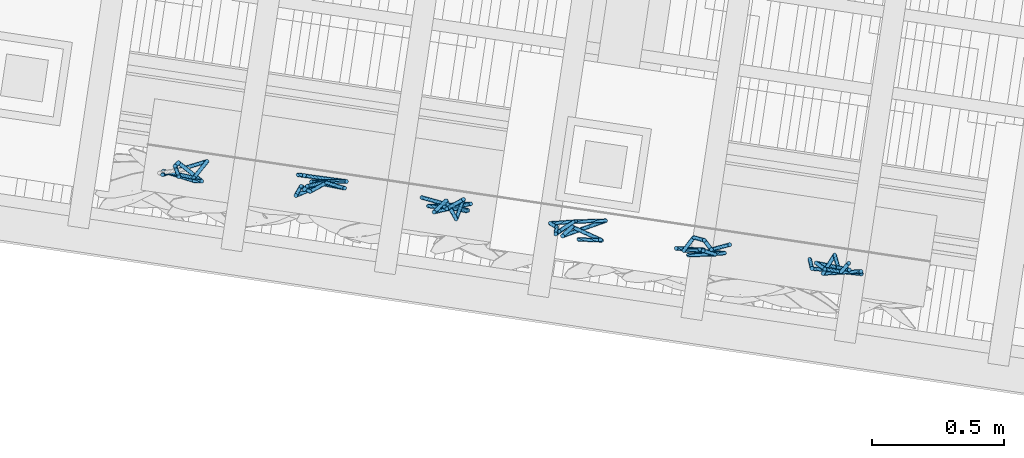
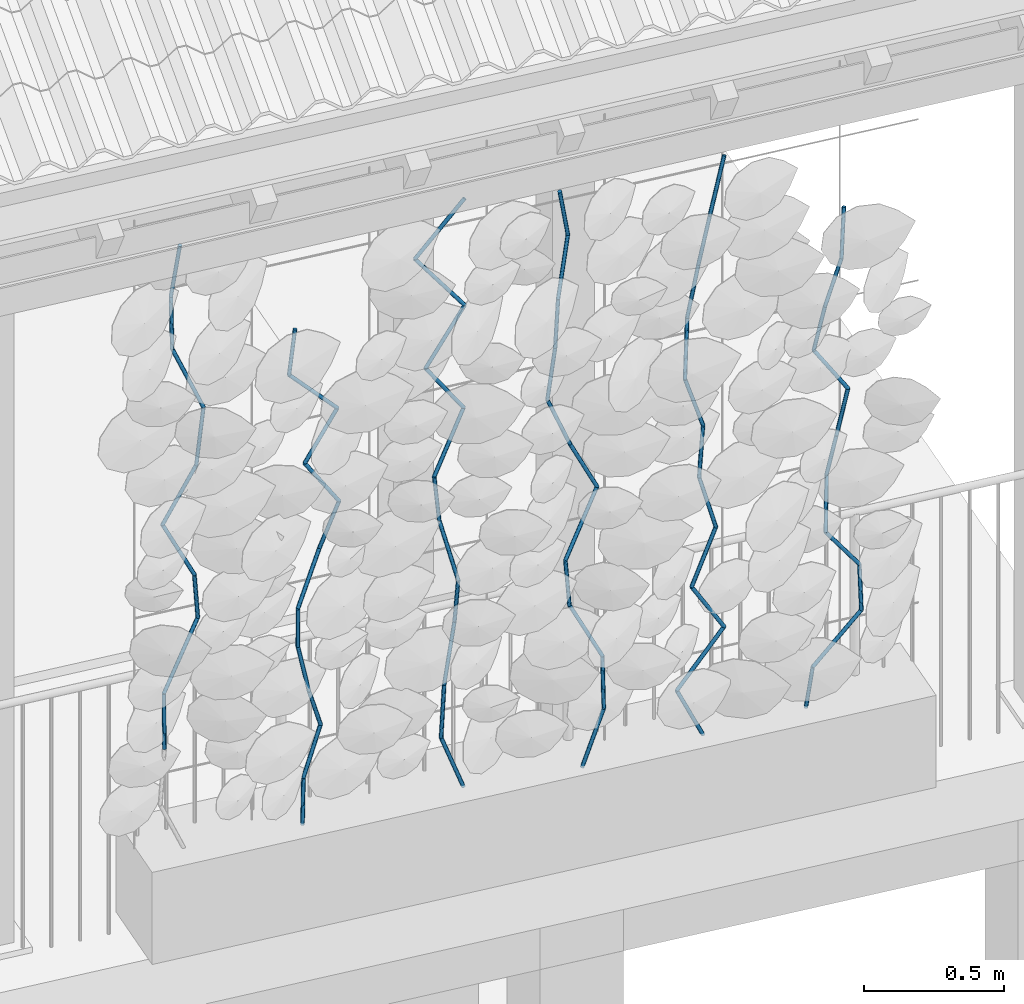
# One storey, part 119 of 131: 64 members, 1 element without a shape of its own.
"""IFC4 building model written with IfcOpenShell, lengths in metres."""

import ifcopenshell
import ifcopenshell.guid

model = None  # the IFC model being written
_history = None  # IfcOwnerHistory: only IFC2X3 demands one
_inside = {}  # id of a spatial element -> (the spatial element, [elements in it])
_under = {}  # id of a project, library or spatial element -> (it, [spatial elements below it])
_declared = {}  # id of a project -> (the project, [libraries it declares])
_typed = {}  # id of a type object -> (the type object, [elements of that type])
_made_of = {}  # id of a material, layer set ... -> (it, [elements and type objects made of it])


def new_model(schema):
    """Start an empty IFC model of exactly this schema.

    Asked for "IFC4X3", IfcOpenShell would pick the latest addendum, in which some entities
    have other attributes; the version numbers below select the first issue.
    IFC2X3 requires an IfcOwnerHistory on every rooted entity: one is made here for all.
    """
    global model, _history
    if schema == "IFC4X3":
        model = ifcopenshell.file(schema_version=(4, 3, 0, 0))
    else:
        model = ifcopenshell.file(schema=schema)
    _inside.clear()
    _under.clear()
    _declared.clear()
    _typed.clear()
    _made_of.clear()
    _history = None
    if model.schema == "IFC2X3":
        org = make("IfcOrganization", Name="unknown")
        user = make(
            "IfcPersonAndOrganization",
            ThePerson=make("IfcPerson", FamilyName="unknown"),
            TheOrganization=org,
        )
        app = make(
            "IfcApplication",
            ApplicationDeveloper=org,
            Version="unknown",
            ApplicationFullName="unknown",
            ApplicationIdentifier="unknown",
        )
        _history = make(
            "IfcOwnerHistory",
            OwningUser=user,
            OwningApplication=app,
            ChangeAction="ADDED",
            CreationDate=0,
        )
    return model


def make(cls, **values):
    """One entity of the class cls with the attributes given. An attribute that is None is left unset."""
    return model.create_entity(
        cls, **{name: value for name, value in values.items() if value is not None}
    )


def rooted(cls, **values):
    """An entity with a GlobalId (a new one), such as an element, a storey or a relation."""
    return make(cls, GlobalId=ifcopenshell.guid.new(), OwnerHistory=_history, **values)


def si_unit(unit_type, name, prefix=None):
    """IfcSIUnit, for example si_unit("LENGTHUNIT", "METRE", prefix="MILLI")."""
    return make("IfcSIUnit", UnitType=unit_type, Prefix=prefix, Name=name)


def assignment(units):
    """IfcUnitAssignment: the units of a project."""
    return None if units is None else make("IfcUnitAssignment", Units=units)


def point(xyz):
    """IfcCartesianPoint."""
    return None if xyz is None else make("IfcCartesianPoint", Coordinates=xyz)


def direction(xyz):
    """IfcDirection."""
    return None if xyz is None else make("IfcDirection", DirectionRatios=xyz)


def frame(location, z_axis=None, x_axis=None):
    """IfcAxis2Placement3D, a coordinate frame: its origin and axes. An axis left out is left unset."""
    return make(
        "IfcAxis2Placement3D",
        Location=point(location),
        Axis=direction(z_axis),
        RefDirection=direction(x_axis),
    )


def origin_with_axes():
    """The frame at (0, 0, 0) with the z axis (0, 0, 1) and the x axis (1, 0, 0) written out."""
    return frame((0.0, 0.0, 0.0), z_axis=(0.0, 0.0, 1.0), x_axis=(1.0, 0.0, 0.0))


def place(relative_to, where):
    """IfcLocalPlacement: puts the frame where relative to a parent placement (None: the world)."""
    return make(
        "IfcLocalPlacement", PlacementRelTo=relative_to, RelativePlacement=where
    )


def context(
    kind, dimensions, precision=None, world=None, true_north=None, identifier=None
):
    """IfcGeometricRepresentationContext, for example the 3D "Model" context."""
    return make(
        "IfcGeometricRepresentationContext",
        ContextIdentifier=identifier,
        ContextType=kind,
        CoordinateSpaceDimension=dimensions,
        Precision=precision,
        WorldCoordinateSystem=world,
        TrueNorth=true_north,
    )


def subcontext(parent, identifier, kind, view, scale=None):
    """IfcGeometricRepresentationSubContext, for example "Body" below "Model"."""
    return make(
        "IfcGeometricRepresentationSubContext",
        ContextIdentifier=identifier,
        ContextType=kind,
        ParentContext=parent,
        TargetScale=scale,
        TargetView=view,
    )


def project(units=None, contexts=None):
    """IfcProject with its units and contexts."""
    return rooted(
        "IfcProject",
        Name="project",
        RepresentationContexts=contexts,
        UnitsInContext=assignment(units),
    )


def spatial(cls, under=None, at=None, **own):
    """A site, building, storey or space (cls), placed at a placement, below another one or the project."""
    s = rooted(cls, ObjectPlacement=at, **own)
    if under is not None:
        _under.setdefault(under.id(), (under, []))[1].append(s)
    return s


def profile(cls, at=None, kind="AREA", **sizes):
    """A parametric profile (cls). Its sizes go by their IFC names, for example OverallWidth=200.0."""
    return make(cls, ProfileType=kind, Position=at, **sizes)


def circle(**sizes):
    """IfcCircleProfileDef."""
    return profile("IfcCircleProfileDef", **sizes)


def extrude(swept, where, along, depth):
    """IfcExtrudedAreaSolid: the profile swept, set in the frame where, extruded along a direction by depth."""
    return make(
        "IfcExtrudedAreaSolid",
        SweptArea=swept,
        Position=where,
        ExtrudedDirection=direction(along),
        Depth=depth,
    )


def shape(context_of_items, identifier, shape_type, items):
    """IfcShapeRepresentation: the items that make up one representation, for example the "Body"."""
    return make(
        "IfcShapeRepresentation",
        ContextOfItems=context_of_items,
        RepresentationIdentifier=identifier,
        RepresentationType=shape_type,
        Items=items,
    )


def material(Name=None, Category=None):
    """IfcMaterial."""
    return make("IfcMaterial", Name=Name, Category=Category)


def material_profile(
    of_material, cross_section, Name=None, Category=None, Priority=None
):
    """IfcMaterialProfile: a cross section and its material."""
    return make(
        "IfcMaterialProfile",
        Name=Name,
        Material=of_material,
        Profile=cross_section,
        Priority=Priority,
        Category=Category,
    )


def profile_set(profiles, Name=None, composite=None):
    """IfcMaterialProfileSet."""
    return make(
        "IfcMaterialProfileSet",
        Name=Name,
        MaterialProfiles=profiles,
        CompositeProfile=composite,
    )


def profile_usage(for_profile_set, cardinal=None, extent=None):
    """IfcMaterialProfileSetUsage: how a profile set lies along its element."""
    return make(
        "IfcMaterialProfileSetUsage",
        ForProfileSet=for_profile_set,
        CardinalPoint=cardinal,
        ReferenceExtent=extent,
    )


def made_of(thing, what):
    """Note that an element or type object is made of a material, layer set ...; save() writes the relation."""
    if what is not None:
        _made_of.setdefault(what.id(), (what, []))[1].append(thing)
    return thing


def type_object(cls, material=None, **own):
    """A type object (cls), such as IfcWallType, which elements share."""
    return made_of(rooted(cls, **own), material)


def element(
    cls,
    number,
    at=None,
    inside=None,
    cuts=None,
    type_object=None,
    material=None,
    context=None,
    identifier="Body",
    shape_type=None,
    held_by="IfcProductDefinitionShape",
    body=None,
    shapes=None,
    **own,
):
    """One element of the class cls, such as IfcWall. Its Tag is "e" and its number.

    at: its placement. inside: the storey or other place that contains it. cuts: it is an
    opening in that element (IfcRelVoidsElement). A single representation is given by context,
    identifier, shape_type and body (its items); several are given by shapes. held_by: the class
    of the entity that holds the representations. save() writes the other relations.
    """
    e = rooted(cls, Tag="e%d" % number, ObjectPlacement=at, **own)
    if body is not None:
        shapes = [shape(context, identifier, shape_type, body)]
    if shapes is not None:
        e.Representation = make(held_by, Representations=shapes)
    if inside is not None:
        _inside.setdefault(inside.id(), (inside, []))[1].append(e)
    if cuts is not None:
        rooted(
            "IfcRelVoidsElement", RelatingBuildingElement=cuts, RelatedOpeningElement=e
        )
    if type_object is not None:
        _typed.setdefault(type_object.id(), (type_object, []))[1].append(e)
    return made_of(e, material)


def aggregate(whole, parts):
    """IfcRelAggregates: a whole, such as a stair, and the parts it consists of."""
    return rooted("IfcRelAggregates", RelatingObject=whole, RelatedObjects=parts)


def save(model, path):
    """Write the relations noted so far, then the file.

    IfcRelAggregates (storeys below a building ...), IfcRelContainedInSpatialStructure (elements
    in a storey), IfcRelDefinesByType, IfcRelAssociatesMaterial and IfcRelDeclares: one each for
    every whole, place, type object, material and project.
    """
    for whole, parts in _under.values():
        aggregate(whole, parts)
    for where, things in _inside.values():
        rooted(
            "IfcRelContainedInSpatialStructure",
            RelatedElements=things,
            RelatingStructure=where,
        )
    for kind, things in _typed.values():
        rooted("IfcRelDefinesByType", RelatedObjects=things, RelatingType=kind)
    for what, things in _made_of.values():
        rooted("IfcRelAssociatesMaterial", RelatedObjects=things, RelatingMaterial=what)
    for by, libraries in _declared.values():
        rooted("IfcRelDeclares", RelatingContext=by, RelatedDefinitions=libraries)
    model.write(path)


model = new_model("IFC4")

# Units and contexts
model_context = context("Model", 3, precision=1e-05, world=origin_with_axes(), true_north=direction((0.0, 1.0)))
body_context = subcontext(model_context, "Body", "Model", "MODEL_VIEW")
ifc_project = project(units=[si_unit("VOLUMEUNIT", "CUBIC_METRE"), si_unit("LENGTHUNIT", "METRE"), si_unit("AREAUNIT", "SQUARE_METRE")], contexts=[model_context])

# Site, building, storey
site_placement = place(None, origin_with_axes())
site = spatial("IfcSite", under=ifc_project, at=site_placement, Name="Lares · Rua das Mercês · artigo 4771")
building_placement = place(site_placement, frame((15.0, 9.7, 15.8), z_axis=(0.0, 0.0, 1.0), x_axis=(0.989015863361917, -0.147809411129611, 0.0)))
building = spatial("IfcBuilding", under=site, at=building_placement, Name="Casa Sobreposta")
storey_placement = place(building_placement, origin_with_axes())
storey = spatial("IfcBuildingStorey", under=building, at=storey_placement, Name="00 · Habitação e estacionamento", Elevation=15.8)

# Assembly, members
assembly_placement = place(storey_placement, origin_with_axes())
assembly = element("IfcElementAssembly", 1, at=assembly_placement, inside=storey, Name="Fachada sul e pátio · estrutura e trepadeiras", ObjectType="LIVING_SHADE_TRELLIS", PredefinedType="USERDEFINED")
ifc_material = material(Name="Ramos de trepadeiras", Category="wood")
ifc_material_profile = material_profile(ifc_material, circle(Radius=0.0075))
ifc_profile_set = profile_set([ifc_material_profile], Name="D0.015")
ifc_profile_usage_1 = profile_usage(ifc_profile_set)
member_type = type_object("IfcMemberType", Name="D0.015 / vine_wood", PredefinedType="NOTDEFINED", material=ifc_profile_set)
member_1_placement = place(assembly_placement, frame((28.5749850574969, -1.71359357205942, 0.832915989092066), z_axis=(-0.0115075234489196, -0.00834781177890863, 0.999898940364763), x_axis=(0.999933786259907, -9.6069000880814e-05, 0.0115071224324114)))
member_1 = element("IfcMember", 2, at=member_1_placement, type_object=member_type, material=ifc_profile_usage_1, Name="Trepadeiras · ramo", context=body_context, shape_type="SweptSolid", body=[
    extrude(circle(Radius=0.0075), origin_with_axes(), (0.0, 0.0, 1.0), 0.241482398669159),
])
ifc_profile_usage_2 = profile_usage(ifc_profile_set)
member_2_placement = place(assembly_placement, frame((28.5722061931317, -1.71560942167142, 1.0743739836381), z_axis=(0.533464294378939, 0.251838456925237, 0.807460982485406), x_axis=(0.426902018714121, -0.904297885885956, 0.0)))
member_2 = element("IfcMember", 3, at=member_2_placement, type_object=member_type, material=ifc_profile_usage_2, Name="Trepadeiras · ramo", context=body_context, shape_type="SweptSolid", body=[
    extrude(circle(Radius=0.0075), origin_with_axes(), (0.0, 0.0, 1.0), 0.29903363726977),
])
ifc_profile_usage_3 = profile_usage(ifc_profile_set)
member_3_placement = place(assembly_placement, frame((28.7317299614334, -1.64030125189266, 1.31583197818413), z_axis=(-0.158977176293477, -0.272002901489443, 0.949073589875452), x_axis=(-0.863351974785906, 0.504602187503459, 0.0)))
member_3 = element("IfcMember", 4, at=member_3_placement, type_object=member_type, material=ifc_profile_usage_3, Name="Trepadeiras · ramo", context=body_context, shape_type="SweptSolid", body=[
    extrude(circle(Radius=0.0075), origin_with_axes(), (0.0, 0.0, 1.0), 0.254414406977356),
])
ifc_profile_usage_4 = profile_usage(ifc_profile_set)
member_4_placement = place(assembly_placement, frame((28.6912838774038, -1.70950270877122, 1.55728997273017), z_axis=(-0.441663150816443, 0.0283630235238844, 0.89673251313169), x_axis=(0.0640866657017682, 0.997944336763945, 0.0)))
member_4 = element("IfcMember", 5, at=member_4_placement, type_object=member_type, material=ifc_profile_usage_4, Name="Trepadeiras · ramo", context=body_context, shape_type="SweptSolid", body=[
    extrude(circle(Radius=0.0075), origin_with_axes(), (0.0, 0.0, 1.0), 0.269264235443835),
])
ifc_profile_usage_5 = profile_usage(ifc_profile_set)
member_5_placement = place(assembly_placement, frame((28.5723597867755, -1.70186556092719, 1.7987479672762), z_axis=(0.44971328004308, -0.0700878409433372, 0.890418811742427), x_axis=(-0.153991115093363, -0.988072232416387, 0.0)))
member_5 = element("IfcMember", 6, at=member_5_placement, type_object=member_type, material=ifc_profile_usage_5, Name="Trepadeiras · ramo", context=body_context, shape_type="SweptSolid", body=[
    extrude(circle(Radius=0.0075), origin_with_axes(), (0.0, 0.0, 1.0), 0.271173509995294),
])
ifc_profile_usage_6 = profile_usage(ifc_profile_set)
member_6_placement = place(assembly_placement, frame((28.6943101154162, -1.72087152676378, 2.04020596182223), z_axis=(0.117988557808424, 0.0130437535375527, 0.992929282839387), x_axis=(0.109881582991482, -0.993944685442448, 0.0)))
member_6 = element("IfcMember", 7, at=member_6_placement, type_object=member_type, material=ifc_profile_usage_6, Name="Trepadeiras · ramo", context=body_context, shape_type="SweptSolid", body=[
    extrude(circle(Radius=0.0075), origin_with_axes(), (0.0, 0.0, 1.0), 0.24317743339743),
])
ifc_profile_usage_7 = profile_usage(ifc_profile_set)
member_7_placement = place(assembly_placement, frame((28.7230022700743, -1.71769958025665, 2.28166395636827), z_axis=(-0.366803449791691, 0.210846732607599, 0.906089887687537), x_axis=(0.498355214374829, 0.866972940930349, 0.0)))
member_7 = element("IfcMember", 8, at=member_7_placement, type_object=member_type, material=ifc_profile_usage_7, Name="Trepadeiras · ramo", context=body_context, shape_type="SweptSolid", body=[
    extrude(circle(Radius=0.0075), origin_with_axes(), (0.0, 0.0, 1.0), 0.26648348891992),
])
ifc_profile_usage_8 = profile_usage(ifc_profile_set)
member_8_placement = place(assembly_placement, frame((28.625255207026, -1.66151240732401, 2.5231219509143), z_axis=(-0.0444062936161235, -0.0617658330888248, 0.997102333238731), x_axis=(-0.811939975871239, 0.583740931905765, 0.0)))
member_8 = element("IfcMember", 9, at=member_8_placement, type_object=member_type, material=ifc_profile_usage_8, Name="Trepadeiras · ramo", context=body_context, shape_type="SweptSolid", body=[
    extrude(circle(Radius=0.0075), origin_with_axes(), (0.0, 0.0, 1.0), 0.24215969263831),
])
ifc_profile_usage_9 = profile_usage(ifc_profile_set)
member_9_placement = place(assembly_placement, frame((28.6145017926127, -1.67646960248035, 2.76457994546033), z_axis=(0.0813731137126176, -0.15348360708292, 0.984795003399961), x_axis=(-0.883509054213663, -0.468414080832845, 0.0)))
member_9 = element("IfcMember", 10, at=member_9_placement, type_object=member_type, material=ifc_profile_usage_9, Name="Trepadeiras · ramo", context=body_context, shape_type="SweptSolid", body=[
    extrude(circle(Radius=0.0075), origin_with_axes(), (0.0, 0.0, 1.0), 0.245186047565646),
])
ifc_profile_usage_10 = profile_usage(ifc_profile_set)
member_10_placement = place(assembly_placement, frame((29.112347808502, -1.69130840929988, 0.35), z_axis=(0.0459054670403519, 0.0712523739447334, 0.996401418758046), x_axis=(0.840639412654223, -0.541595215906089, 0.0)))
member_10 = element("IfcMember", 11, at=member_10_placement, type_object=member_type, material=ifc_profile_usage_10, Name="Trepadeiras · ramo", context=body_context, shape_type="SweptSolid", body=[
    extrude(circle(Radius=0.0075), origin_with_axes(), (0.0, 0.0, 1.0), 0.19361986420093),
])
ifc_profile_usage_11 = profile_usage(ifc_profile_set)
member_11_placement = place(assembly_placement, frame((29.1212360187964, -1.67751253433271, 0.542923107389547), z_axis=(0.367595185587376, 0.141279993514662, 0.919191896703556), x_axis=(0.358751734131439, -0.933433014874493, 0.0)))
member_11 = element("IfcMember", 12, at=member_11_placement, type_object=member_type, material=ifc_profile_usage_11, Name="Trepadeiras · ramo", context=body_context, shape_type="SweptSolid", body=[
    extrude(circle(Radius=0.0075), origin_with_axes(), (0.0, 0.0, 1.0), 0.209883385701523),
])
ifc_profile_usage_12 = profile_usage(ifc_profile_set)
member_12_placement = place(assembly_placement, frame((29.1983881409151, -1.64786021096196, 0.735846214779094), z_axis=(-0.3051563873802, -0.231978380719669, 0.92361550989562), x_axis=(-0.605181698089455, 0.796087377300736, 0.0)))
member_12 = element("IfcMember", 13, at=member_12_placement, type_object=member_type, material=ifc_profile_usage_12, Name="Trepadeiras · ramo", context=body_context, shape_type="SweptSolid", body=[
    extrude(circle(Radius=0.0075), origin_with_axes(), (0.0, 0.0, 1.0), 0.208878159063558),
])
ifc_profile_usage_13 = profile_usage(ifc_profile_set)
member_13_placement = place(assembly_placement, frame((29.1346476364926, -1.69631542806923, 0.928769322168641), z_axis=(-0.183770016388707, 0.0772300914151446, 0.979930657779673), x_axis=(0.387431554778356, 0.921898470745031, 0.0)))
member_13 = element("IfcMember", 14, at=member_13_placement, type_object=member_type, material=ifc_profile_usage_13, Name="Trepadeiras · ramo", context=body_context, shape_type="SweptSolid", body=[
    extrude(circle(Radius=0.0075), origin_with_axes(), (0.0, 0.0, 1.0), 0.19687424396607),
])
ifc_profile_usage_14 = profile_usage(ifc_profile_set)
member_14_placement = place(assembly_placement, frame((29.0984680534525, -1.68111081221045, 1.12169242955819), z_axis=(-0.074917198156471, -0.192844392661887, 0.978365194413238), x_axis=(-0.932131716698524, 0.362119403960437, 0.0)))
member_14 = element("IfcMember", 15, at=member_14_placement, type_object=member_type, material=ifc_profile_usage_14, Name="Trepadeiras · ramo", context=body_context, shape_type="SweptSolid", body=[
    extrude(circle(Radius=0.0075), origin_with_axes(), (0.0, 0.0, 1.0), 0.197189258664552),
])
ifc_profile_usage_15 = profile_usage(ifc_profile_set)
member_15_placement = place(assembly_placement, frame((29.0836951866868, -1.71913765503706, 1.31461553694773), z_axis=(0.46899645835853, 0.284231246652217, 0.836214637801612), x_axis=(0.518289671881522, -0.85520513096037, 4.23222490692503e-17)))
member_15 = element("IfcMember", 16, at=member_15_placement, type_object=member_type, material=ifc_profile_usage_15, Name="Trepadeiras · ramo", context=body_context, shape_type="SweptSolid", body=[
    extrude(circle(Radius=0.0075), origin_with_axes(), (0.0, 0.0, 1.0), 0.23071003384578),
])
ifc_profile_usage_16 = profile_usage(ifc_profile_set)
member_16_placement = place(assembly_placement, frame((29.1918973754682, -1.6535626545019, 1.50753864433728), z_axis=(0.344333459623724, -0.0518501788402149, 0.937414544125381), x_axis=(-0.148902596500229, -0.988851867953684, 0.0)))
member_16 = element("IfcMember", 17, at=member_16_placement, type_object=member_type, material=ifc_profile_usage_16, Name="Trepadeiras · ramo", context=body_context, shape_type="SweptSolid", body=[
    extrude(circle(Radius=0.0075), origin_with_axes(), (0.0, 0.0, 1.0), 0.20580340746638),
])
ifc_profile_usage_17 = profile_usage(ifc_profile_set)
member_17_placement = place(assembly_placement, frame((29.2627623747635, -1.66423359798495, 1.70046175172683), z_axis=(-0.556224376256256, 0.0257593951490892, 0.830632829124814), x_axis=(0.0462615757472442, 0.998929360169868, 0.0)))
member_17 = element("IfcMember", 18, at=member_17_placement, type_object=member_type, material=ifc_profile_usage_17, Name="Trepadeiras · ramo", context=body_context, shape_type="SweptSolid", body=[
    extrude(circle(Radius=0.0075), origin_with_axes(), (0.0, 0.0, 1.0), 0.232260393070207),
])
ifc_profile_usage_18 = profile_usage(ifc_profile_set)
member_18_placement = place(assembly_placement, frame((29.133573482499, -1.65825071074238, 1.89338485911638), z_axis=(0.565369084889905, 0.0880131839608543, 0.820128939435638), x_axis=(0.153821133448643, -0.988098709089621, 0.0)))
member_18 = element("IfcMember", 19, at=member_18_placement, type_object=member_type, material=ifc_profile_usage_18, Name="Trepadeiras · ramo", context=body_context, shape_type="SweptSolid", body=[
    extrude(circle(Radius=0.0075), origin_with_axes(), (0.0, 0.0, 1.0), 0.235235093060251),
])
ifc_profile_usage_19 = profile_usage(ifc_profile_set)
member_19_placement = place(assembly_placement, frame((29.2665681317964, -1.63754692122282, 2.08630796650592), z_axis=(-0.693244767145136, -0.00975573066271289, 0.720636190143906), x_axis=(-0.0140711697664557, 0.999900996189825, 0.0)))
member_19 = element("IfcMember", 20, at=member_19_placement, type_object=member_type, material=ifc_profile_usage_19, Name="Trepadeiras · ramo", context=body_context, shape_type="SweptSolid", body=[
    extrude(circle(Radius=0.0075), origin_with_axes(), (0.0, 0.0, 1.0), 0.267712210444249),
])
ifc_profile_usage_20 = profile_usage(ifc_profile_set)
member_20_placement = place(assembly_placement, frame((29.0809780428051, -1.64015864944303, 2.27923107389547), z_axis=(0.120581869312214, 0.0060911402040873, 0.992684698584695), x_axis=(0.0504502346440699, -0.998726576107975, 0.0)))
member_20 = element("IfcMember", 21, at=member_20_placement, type_object=member_type, material=ifc_profile_usage_20, Name="Trepadeiras · ramo", context=body_context, shape_type="SweptSolid", body=[
    extrude(circle(Radius=0.0075), origin_with_axes(), (0.0, 0.0, 1.0), 0.194344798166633),
])
ifc_profile_usage_21 = profile_usage(ifc_profile_set)
member_21_placement = place(assembly_placement, frame((29.7317866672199, -1.68120411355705, 0.35), z_axis=(-0.340028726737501, 0.0134025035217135, 0.940319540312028), x_axis=(0.0393852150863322, 0.999224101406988, 2.396751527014e-18)))
member_21 = element("IfcMember", 22, at=member_21_placement, type_object=member_type, material=ifc_profile_usage_21, Name="Trepadeiras · ramo", context=body_context, shape_type="SweptSolid", body=[
    extrude(circle(Radius=0.0075), origin_with_axes(), (0.0, 0.0, 1.0), 0.246825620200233),
])
ifc_profile_usage_22 = profile_usage(ifc_profile_set)
member_22_placement = place(assembly_placement, frame((29.647858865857, -1.67789603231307, 0.582094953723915), z_axis=(0.0399997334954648, -0.026016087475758, 0.998860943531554), x_axis=(-0.545227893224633, -0.838287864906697, 0.0)))
member_22 = element("IfcMember", 23, at=member_22_placement, type_object=member_type, material=ifc_profile_usage_22, Name="Trepadeiras · ramo", context=body_context, shape_type="SweptSolid", body=[
    extrude(circle(Radius=0.0075), origin_with_axes(), (0.0, 0.0, 1.0), 0.232359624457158),
])
ifc_profile_usage_23 = profile_usage(ifc_profile_set)
member_23_placement = place(assembly_placement, frame((29.6571531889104, -1.68394112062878, 0.814189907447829), z_axis=(0.235799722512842, 0.183261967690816, 0.954365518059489), x_axis=(0.613653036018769, -0.789575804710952, 0.0)))
member_23 = element("IfcMember", 24, at=member_23_placement, type_object=member_type, material=ifc_profile_usage_23, Name="Trepadeiras · ramo", context=body_context, shape_type="SweptSolid", body=[
    extrude(circle(Radius=0.0075), origin_with_axes(), (0.0, 0.0, 1.0), 0.243192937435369),
])
ifc_profile_usage_24 = profile_usage(ifc_profile_set)
member_24_placement = place(assembly_placement, frame((29.7144980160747, -1.63937310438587, 1.04628486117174), z_axis=(-0.0670096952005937, -0.316654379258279, 0.946171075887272), x_axis=(-0.978333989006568, 0.207032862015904, 0.0)))
member_24 = element("IfcMember", 25, at=member_24_placement, type_object=member_type, material=ifc_profile_usage_24, Name="Trepadeiras · ramo", context=body_context, shape_type="SweptSolid", body=[
    extrude(circle(Radius=0.0075), origin_with_axes(), (0.0, 0.0, 1.0), 0.245299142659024),
])
ifc_profile_usage_25 = profile_usage(ifc_profile_set)
member_25_placement = place(assembly_placement, frame((29.6980605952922, -1.71704815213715, 1.27837981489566), z_axis=(-0.19641976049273, 0.256738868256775, 0.946310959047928), x_axis=(0.794223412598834, 0.607625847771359, 0.0)))
member_25 = element("IfcMember", 26, at=member_25_placement, type_object=member_type, material=ifc_profile_usage_25, Name="Trepadeiras · ramo", context=body_context, shape_type="SweptSolid", body=[
    extrude(circle(Radius=0.0075), origin_with_axes(), (0.0, 0.0, 1.0), 0.245262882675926),
])
ifc_profile_usage_26 = profile_usage(ifc_profile_set)
member_26_placement = place(assembly_placement, frame((29.6498861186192, -1.65407963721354, 1.51047476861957), z_axis=(-0.160183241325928, -0.205358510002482, 0.965489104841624), x_axis=(-0.788495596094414, 0.615040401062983, 0.0)))
member_26 = element("IfcMember", 27, at=member_26_placement, type_object=member_type, material=ifc_profile_usage_26, Name="Trepadeiras · ramo", context=body_context, shape_type="SweptSolid", body=[
    extrude(circle(Radius=0.0075), origin_with_axes(), (0.0, 0.0, 1.0), 0.240391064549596),
])
ifc_profile_usage_27 = profile_usage(ifc_profile_set)
member_27_placement = place(assembly_placement, frame((29.6113794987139, -1.70344598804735, 1.74256972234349), z_axis=(0.487994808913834, 0.190415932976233, 0.851823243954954), x_axis=(0.363507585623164, -0.931591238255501, 0.0)))
member_27 = element("IfcMember", 28, at=member_27_placement, type_object=member_type, material=ifc_profile_usage_27, Name="Trepadeiras · ramo", context=body_context, shape_type="SweptSolid", body=[
    extrude(circle(Radius=0.0075), origin_with_axes(), (0.0, 0.0, 1.0), 0.272468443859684),
])
ifc_profile_usage_28 = profile_usage(ifc_profile_set)
member_28_placement = place(assembly_placement, frame((29.7443426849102, -1.65156365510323, 1.9746646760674), z_axis=(-0.560332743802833, -0.115226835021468, 0.8202133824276), x_axis=(-0.201425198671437, 0.979503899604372, 0.0)))
member_28 = element("IfcMember", 29, at=member_28_placement, type_object=member_type, material=ifc_profile_usage_28, Name="Trepadeiras · ramo", context=body_context, shape_type="SweptSolid", body=[
    extrude(circle(Radius=0.0075), origin_with_axes(), (0.0, 0.0, 1.0), 0.282968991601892),
])
ifc_profile_usage_29 = profile_usage(ifc_profile_set)
member_29_placement = place(assembly_placement, frame((29.5857858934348, -1.68416927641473, 2.20675962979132), z_axis=(0.548330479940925, 0.0211627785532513, 0.835993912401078), x_axis=(0.038566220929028, -0.999256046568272, 0.0)))
member_29 = element("IfcMember", 30, at=member_29_placement, type_object=member_type, material=ifc_profile_usage_29, Name="Trepadeiras · ramo", context=body_context, shape_type="SweptSolid", body=[
    extrude(circle(Radius=0.0075), origin_with_axes(), (0.0, 0.0, 1.0), 0.277627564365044),
])
ifc_profile_usage_30 = profile_usage(ifc_profile_set)
member_30_placement = place(assembly_placement, frame((29.7380175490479, -1.67829390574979, 2.43885458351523), z_axis=(-0.614491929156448, 0.0768333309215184, 0.785172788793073), x_axis=(0.124069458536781, 0.992273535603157, 0.0)))
member_30 = element("IfcMember", 31, at=member_30_placement, type_object=member_type, material=ifc_profile_usage_30, Name="Trepadeiras · ramo", context=body_context, shape_type="SweptSolid", body=[
    extrude(circle(Radius=0.0075), origin_with_axes(), (0.0, 0.0, 1.0), 0.295597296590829),
])
ifc_profile_usage_31 = profile_usage(ifc_profile_set)
member_31_placement = place(assembly_placement, frame((29.5563753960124, -1.65558218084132, 2.67094953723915), z_axis=(0.614559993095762, -0.0754962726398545, 0.785249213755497), x_axis=(-0.121929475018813, -0.992538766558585, 0.0)))
member_31 = element("IfcMember", 32, at=member_31_placement, type_object=member_type, material=ifc_profile_usage_31, Name="Trepadeiras · ramo", context=body_context, shape_type="SweptSolid", body=[
    extrude(circle(Radius=0.0075), origin_with_axes(), (0.0, 0.0, 1.0), 0.29556852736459),
])
ifc_profile_usage_32 = profile_usage(ifc_profile_set)
member_32_placement = place(assembly_placement, frame((30.1688478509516, -1.72486609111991, 0.35), z_axis=(0.354210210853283, 0.0375804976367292, 0.934410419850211), x_axis=(0.105504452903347, -0.994418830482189, 0.0)))
member_32 = element("IfcMember", 33, at=member_32_placement, type_object=member_type, material=ifc_profile_usage_32, Name="Trepadeiras · ramo", context=body_context, shape_type="SweptSolid", body=[
    extrude(circle(Radius=0.0075), origin_with_axes(), (0.0, 0.0, 1.0), 0.244269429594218),
])
ifc_profile_usage_33 = profile_usage(ifc_profile_set)
member_33_placement = place(assembly_placement, frame((30.2553705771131, -1.71568632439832, 0.578247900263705), z_axis=(-0.0207317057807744, 0.0073157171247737, 0.999758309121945), x_axis=(0.999785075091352, 0.000151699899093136, 0.0207311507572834)))
member_33 = element("IfcMember", 34, at=member_33_placement, type_object=member_type, material=ifc_profile_usage_33, Name="Trepadeiras · ramo", context=body_context, shape_type="SweptSolid", body=[
    extrude(circle(Radius=0.0075), origin_with_axes(), (0.0, 0.0, 1.0), 0.22830307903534),
])
ifc_profile_usage_34 = profile_usage(ifc_profile_set)
member_34_placement = place(assembly_placement, frame((30.2506374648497, -1.71401612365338, 0.80649580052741), z_axis=(-0.440679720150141, 0.126938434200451, 0.888643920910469), x_axis=(0.276796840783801, 0.96092846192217, -1.34457803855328e-17)))
member_34 = element("IfcMember", 35, at=member_34_placement, type_object=member_type, material=ifc_profile_usage_34, Name="Trepadeiras · ramo", context=body_context, shape_type="SweptSolid", body=[
    extrude(circle(Radius=0.0075), origin_with_axes(), (0.0, 0.0, 1.0), 0.256849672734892),
])
ifc_profile_usage_35 = profile_usage(ifc_profile_set)
member_35_placement = place(assembly_placement, frame((30.1374490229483, -1.68141202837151, 1.03474370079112), z_axis=(-0.132643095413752, -0.169738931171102, 0.976521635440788), x_axis=(-0.787946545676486, 0.615743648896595, 0.0)))
member_35 = element("IfcMember", 36, at=member_35_placement, type_object=member_type, material=ifc_profile_usage_35, Name="Trepadeiras · ramo", context=body_context, shape_type="SweptSolid", body=[
    extrude(circle(Radius=0.0075), origin_with_axes(), (0.0, 0.0, 1.0), 0.233735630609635),
])
ifc_profile_usage_36 = profile_usage(ifc_profile_set)
member_36_placement = place(assembly_placement, frame((30.1064456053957, -1.7210860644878, 1.26299160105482), z_axis=(0.534234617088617, 0.284294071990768, 0.796096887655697), x_axis=(0.46977618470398, -0.882785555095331, 0.0)))
member_36 = element("IfcMember", 37, at=member_36_placement, type_object=member_type, material=ifc_profile_usage_36, Name="Trepadeiras · ramo", context=body_context, shape_type="SweptSolid", body=[
    extrude(circle(Radius=0.0075), origin_with_axes(), (0.0, 0.0, 1.0), 0.286708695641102),
])
ifc_profile_usage_37 = profile_usage(ifc_profile_set)
member_37_placement = place(assembly_placement, frame((30.2596153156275, -1.63957648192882, 1.49123950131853), z_axis=(-0.439127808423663, -0.0792948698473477, 0.894918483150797), x_axis=(-0.177699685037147, 0.984084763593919, 0.0)))
member_37 = element("IfcMember", 38, at=member_37_placement, type_object=member_type, material=ifc_profile_usage_37, Name="Trepadeiras · ramo", context=body_context, shape_type="SweptSolid", body=[
    extrude(circle(Radius=0.0075), origin_with_axes(), (0.0, 0.0, 1.0), 0.255048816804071),
])
ifc_profile_usage_38 = profile_usage(ifc_profile_set)
member_38_placement = place(assembly_placement, frame((30.1476162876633, -1.65980054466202, 1.71948740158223), z_axis=(-0.380194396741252, -0.083436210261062, 0.921135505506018), x_axis=(-0.214355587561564, 0.976755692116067, 0.0)))
member_38 = element("IfcMember", 39, at=member_38_placement, type_object=member_type, material=ifc_profile_usage_38, Name="Trepadeiras · ramo", context=body_context, shape_type="SweptSolid", body=[
    extrude(circle(Radius=0.0075), origin_with_axes(), (0.0, 0.0, 1.0), 0.247789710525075),
])
ifc_profile_usage_39 = profile_usage(ifc_profile_set)
member_39_placement = place(assembly_placement, frame((30.0534080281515, -1.68047517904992, 1.94773530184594), z_axis=(0.112249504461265, -0.0470598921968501, 0.992565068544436), x_axis=(-0.38663947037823, -0.922230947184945, 0.0)))
member_39 = element("IfcMember", 40, at=member_39_placement, type_object=member_type, material=ifc_profile_usage_39, Name="Trepadeiras · ramo", context=body_context, shape_type="SweptSolid", body=[
    extrude(circle(Radius=0.0075), origin_with_axes(), (0.0, 0.0, 1.0), 0.229957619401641),
])
ifc_profile_usage_40 = profile_usage(ifc_profile_set)
member_40_placement = place(assembly_placement, frame((30.0792206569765, -1.69129695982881, 2.17598320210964), z_axis=(0.00276000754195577, -0.114360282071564, 0.993435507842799), x_axis=(-0.999708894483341, -0.0241272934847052, 0.0)))
member_40 = element("IfcMember", 41, at=member_40_placement, type_object=member_type, material=ifc_profile_usage_40, Name="Trepadeiras · ramo", context=body_context, shape_type="SweptSolid", body=[
    extrude(circle(Radius=0.0075), origin_with_axes(), (0.0, 0.0, 1.0), 0.229756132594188),
])
ifc_profile_usage_41 = profile_usage(ifc_profile_set)
member_41_placement = place(assembly_placement, frame((30.0798547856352, -1.71757193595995, 2.40423110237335), z_axis=(0.243826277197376, 0.225510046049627, 0.943235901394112), x_axis=(0.678994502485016, -0.734143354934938, 0.0)))
member_41 = element("IfcMember", 42, at=member_41_placement, type_object=member_type, material=ifc_profile_usage_41, Name="Trepadeiras · ramo", context=body_context, shape_type="SweptSolid", body=[
    extrude(circle(Radius=0.0075), origin_with_axes(), (0.0, 0.0, 1.0), 0.241983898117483),
])
ifc_profile_usage_42 = profile_usage(ifc_profile_set)
member_42_placement = place(assembly_placement, frame((30.1388568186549, -1.66300213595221, 2.63247900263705), z_axis=(-0.203161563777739, -0.180478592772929, 0.962368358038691), x_axis=(-0.66413878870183, 0.747609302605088, 0.0)))
member_42 = element("IfcMember", 43, at=member_42_placement, type_object=member_type, material=ifc_profile_usage_42, Name="Trepadeiras · ramo", context=body_context, shape_type="SweptSolid", body=[
    extrude(circle(Radius=0.0075), origin_with_axes(), (0.0, 0.0, 1.0), 0.23717311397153),
])
ifc_profile_usage_43 = profile_usage(ifc_profile_set)
member_43_placement = place(assembly_placement, frame((30.6435672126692, -1.69358143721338, 0.35), z_axis=(-0.420393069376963, -0.0412524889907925, 0.906403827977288), x_axis=(-0.097659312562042, 0.995219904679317, 0.0)))
member_43 = element("IfcMember", 44, at=member_43_placement, type_object=member_type, material=ifc_profile_usage_43, Name="Trepadeiras · ramo", context=body_context, shape_type="SweptSolid", body=[
    extrude(circle(Radius=0.0075), origin_with_axes(), (0.0, 0.0, 1.0), 0.247882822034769),
])
ifc_profile_usage_44 = profile_usage(ifc_profile_set)
member_44_placement = place(assembly_placement, frame((30.5393589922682, -1.70380722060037, 0.574681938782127), z_axis=(0.634611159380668, 0.0311753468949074, 0.772202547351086), x_axis=(0.0490659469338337, -0.99879554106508, 0.0)))
member_44 = element("IfcMember", 45, at=member_44_placement, type_object=member_type, material=ifc_profile_usage_44, Name="Trepadeiras · ramo", context=body_context, shape_type="SweptSolid", body=[
    extrude(circle(Radius=0.0075), origin_with_axes(), (0.0, 0.0, 1.0), 0.290962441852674),
])
ifc_profile_usage_45 = profile_usage(ifc_profile_set)
member_45_placement = place(assembly_placement, frame((30.7240070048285, -1.69473636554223, 0.799363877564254), z_axis=(-0.51201860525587, -0.103295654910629, 0.852740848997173), x_axis=(-0.197757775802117, 0.980250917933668, 0.0)))
member_45 = element("IfcMember", 46, at=member_45_placement, type_object=member_type, material=ifc_profile_usage_45, Name="Trepadeiras · ramo", context=body_context, shape_type="SweptSolid", body=[
    extrude(circle(Radius=0.0075), origin_with_axes(), (0.0, 0.0, 1.0), 0.263482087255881),
])
ifc_profile_usage_46 = profile_usage(ifc_profile_set)
member_46_placement = place(assembly_placement, frame((30.5890992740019, -1.72195292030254, 1.02404581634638), z_axis=(0.403950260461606, 0.0688871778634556, 0.912183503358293), x_axis=(0.168106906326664, -0.985768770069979, 0.0)))
member_46 = element("IfcMember", 47, at=member_46_placement, type_object=member_type, material=ifc_profile_usage_46, Name="Trepadeiras · ramo", context=body_context, shape_type="SweptSolid", body=[
    extrude(circle(Radius=0.0075), origin_with_axes(), (0.0, 0.0, 1.0), 0.246312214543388),
])
ifc_profile_usage_47 = profile_usage(ifc_profile_set)
member_47_placement = place(assembly_placement, frame((30.6885971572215, -1.70498516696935, 1.24872775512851), z_axis=(-0.257877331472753, 0.0443312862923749, 0.96516010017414), x_axis=(0.16942321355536, 0.985543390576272, 0.0)))
member_47 = element("IfcMember", 48, at=member_47_placement, type_object=member_type, material=ifc_profile_usage_47, Name="Trepadeiras · ramo", context=body_context, shape_type="SweptSolid", body=[
    extrude(circle(Radius=0.0075), origin_with_axes(), (0.0, 0.0, 1.0), 0.23279240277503),
])
ifc_profile_usage_48 = profile_usage(ifc_profile_set)
member_48_placement = place(assembly_placement, frame((30.6285652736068, -1.69466518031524, 1.47340969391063), z_axis=(0.0610607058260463, -0.0125842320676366, 0.998054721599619), x_axis=(-0.20185157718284, -0.979416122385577, 0.0)))
member_48 = element("IfcMember", 49, at=member_48_placement, type_object=member_type, material=ifc_profile_usage_48, Name="Trepadeiras · ramo", context=body_context, shape_type="SweptSolid", body=[
    extrude(circle(Radius=0.0075), origin_with_axes(), (0.0, 0.0, 1.0), 0.22511985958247),
])
ifc_profile_usage_49 = profile_usage(ifc_profile_set)
member_49_placement = place(assembly_placement, frame((30.6423112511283, -1.69749814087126, 1.69809163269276), z_axis=(-0.308558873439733, -0.0423463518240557, 0.950262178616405), x_axis=(-0.135964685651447, 0.990713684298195, 0.0)))
member_49 = element("IfcMember", 50, at=member_49_placement, type_object=member_type, material=ifc_profile_usage_49, Name="Trepadeiras · ramo", context=body_context, shape_type="SweptSolid", body=[
    extrude(circle(Radius=0.0075), origin_with_axes(), (0.0, 0.0, 1.0), 0.236442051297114),
])
ifc_profile_usage_50 = profile_usage(ifc_profile_set)
member_50_placement = place(assembly_placement, frame((30.5693549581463, -1.70751059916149, 1.92277357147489), z_axis=(0.12852965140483, 0.233275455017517, 0.963878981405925), x_axis=(0.875853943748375, -0.482576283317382, 0.0)))
member_50 = element("IfcMember", 51, at=member_50_placement, type_object=member_type, material=ifc_profile_usage_50, Name="Trepadeiras · ramo", context=body_context, shape_type="SweptSolid", body=[
    extrude(circle(Radius=0.0075), origin_with_axes(), (0.0, 0.0, 1.0), 0.233101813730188),
])
ifc_profile_usage_51 = profile_usage(ifc_profile_set)
member_51_placement = place(assembly_placement, frame((30.5993154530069, -1.65313366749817, 2.14745551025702), z_axis=(0.180943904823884, -0.0208270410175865, 0.983272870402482), x_axis=(-0.114347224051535, -0.99344084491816, 0.0)))
member_51 = element("IfcMember", 52, at=member_51_placement, type_object=member_type, material=ifc_profile_usage_51, Name="Trepadeiras · ramo", context=body_context, shape_type="SweptSolid", body=[
    extrude(circle(Radius=0.0075), origin_with_axes(), (0.0, 0.0, 1.0), 0.22850415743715),
])
ifc_profile_usage_52 = profile_usage(ifc_profile_set)
member_52_placement = place(assembly_placement, frame((30.6406618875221, -1.6578927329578, 2.37213744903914), z_axis=(0.138114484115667, -0.135062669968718, 0.981163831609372), x_axis=(-0.699163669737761, -0.714961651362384, 0.0)))
member_52 = element("IfcMember", 53, at=member_52_placement, type_object=member_type, material=ifc_profile_usage_52, Name="Trepadeiras · ramo", context=body_context, shape_type="SweptSolid", body=[
    extrude(circle(Radius=0.0075), origin_with_axes(), (0.0, 0.0, 1.0), 0.228995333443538),
])
ifc_profile_usage_53 = profile_usage(ifc_profile_set)
member_53_placement = place(assembly_placement, frame((30.6722894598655, -1.68882145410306, 2.59681938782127), z_axis=(0.280115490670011, 0.122671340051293, 0.952096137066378), x_axis=(0.401150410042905, -0.916012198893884, -2.16040503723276e-17)))
member_53 = element("IfcMember", 54, at=member_53_placement, type_object=member_type, material=ifc_profile_usage_53, Name="Trepadeiras · ramo", context=body_context, shape_type="SweptSolid", body=[
    extrude(circle(Radius=0.0075), origin_with_axes(), (0.0, 0.0, 1.0), 0.23598660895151),
])
ifc_profile_usage_54 = profile_usage(ifc_profile_set)
member_54_placement = place(assembly_placement, frame((31.0467914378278, -1.67017096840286, 0.35), z_axis=(0.0671512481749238, -0.168174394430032, 0.983467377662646), x_axis=(-0.928702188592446, -0.370826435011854, 0.0)))
member_54 = element("IfcMember", 55, at=member_54_placement, type_object=member_type, material=ifc_profile_usage_54, Name="Trepadeiras · ramo", context=body_context, shape_type="SweptSolid", body=[
    extrude(circle(Radius=0.0075), origin_with_axes(), (0.0, 0.0, 1.0), 0.19717337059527),
])
ifc_profile_usage_55 = profile_usage(ifc_profile_set)
member_55_placement = place(assembly_placement, frame((31.0600318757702, -1.70333048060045, 0.543913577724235), z_axis=(0.697029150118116, 0.0275551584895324, 0.716513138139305), x_axis=(0.0395014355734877, -0.999219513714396, 0.0)))
member_55 = element("IfcMember", 56, at=member_55_placement, type_object=member_type, material=ifc_profile_usage_55, Name="Trepadeiras · ramo", context=body_context, shape_type="SweptSolid", body=[
    extrude(circle(Radius=0.0075), origin_with_axes(), (0.0, 0.0, 1.0), 0.270635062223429),
])
ifc_profile_usage_56 = profile_usage(ifc_profile_set)
member_56_placement = place(assembly_placement, frame((31.2486724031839, -1.69587308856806, 0.737827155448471), z_axis=(-0.018268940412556, 0.0484469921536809, 0.998658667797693), x_axis=(0.935684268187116, 0.352838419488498, 0.0)))
member_56 = element("IfcMember", 57, at=member_56_placement, type_object=member_type, material=ifc_profile_usage_56, Name="Trepadeiras · ramo", context=body_context, shape_type="SweptSolid", body=[
    extrude(circle(Radius=0.0075), origin_with_axes(), (0.0, 0.0, 1.0), 0.194174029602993),
])
ifc_profile_usage_57 = profile_usage(ifc_profile_set)
member_57_placement = place(assembly_placement, frame((31.2451250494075, -1.68646594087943, 0.931740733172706), z_axis=(-0.582503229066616, -0.12229763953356, 0.803575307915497), x_axis=(-0.205472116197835, 0.978662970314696, 0.0)))
member_57 = element("IfcMember", 58, at=member_57_placement, type_object=member_type, material=ifc_profile_usage_57, Name="Trepadeiras · ramo", context=body_context, shape_type="SweptSolid", body=[
    extrude(circle(Radius=0.0075), origin_with_axes(), (0.0, 0.0, 1.0), 0.241313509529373),
])
ifc_profile_usage_58 = profile_usage(ifc_profile_set)
member_58_placement = place(assembly_placement, frame((31.1045591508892, -1.71597801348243, 1.12565431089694), z_axis=(0.157157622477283, 0.359853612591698, 0.919677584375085), x_axis=(0.916417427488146, -0.400223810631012, 0.0)))
member_58 = element("IfcMember", 59, at=member_58_placement, type_object=member_type, material=ifc_profile_usage_58, Name="Trepadeiras · ramo", context=body_context, shape_type="SweptSolid", body=[
    extrude(circle(Radius=0.0075), origin_with_axes(), (0.0, 0.0, 1.0), 0.210849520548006),
])
ifc_profile_usage_59 = profile_usage(ifc_profile_set)
member_59_placement = place(assembly_placement, frame((31.137695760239, -1.64010305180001, 1.31956788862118), z_axis=(0.101722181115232, -0.222881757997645, 0.969523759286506), x_axis=(-0.909731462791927, -0.415197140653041, 0.0)))
member_59 = element("IfcMember", 60, at=member_59_placement, type_object=member_type, material=ifc_profile_usage_59, Name="Trepadeiras · ramo", context=body_context, shape_type="SweptSolid", body=[
    extrude(circle(Radius=0.0075), origin_with_axes(), (0.0, 0.0, 1.0), 0.200009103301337),
])
ifc_profile_usage_60 = profile_usage(ifc_profile_set)
member_60_placement = place(assembly_placement, frame((31.1580411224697, -1.68468143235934, 1.51348146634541), z_axis=(0.216259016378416, -0.0136234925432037, 0.976240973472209), x_axis=(-0.0628715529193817, -0.998021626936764, 0.0)))
member_60 = element("IfcMember", 61, at=member_60_placement, type_object=member_type, material=ifc_profile_usage_60, Name="Trepadeiras · ramo", context=body_context, shape_type="SweptSolid", body=[
    extrude(circle(Radius=0.0075), origin_with_axes(), (0.0, 0.0, 1.0), 0.198632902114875),
])
ifc_profile_usage_61 = profile_usage(ifc_profile_set)
member_61_placement = place(assembly_placement, frame((31.2009972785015, -1.68738750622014, 1.70739504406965), z_axis=(-0.551350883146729, 0.0309322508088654, 0.833699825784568), x_axis=(0.056014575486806, 0.998429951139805, 0.0)))
member_61 = element("IfcMember", 62, at=member_61_placement, type_object=member_type, material=ifc_profile_usage_61, Name="Trepadeiras · ramo", context=body_context, shape_type="SweptSolid", body=[
    extrude(circle(Radius=0.0075), origin_with_axes(), (0.0, 0.0, 1.0), 0.232594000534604),
])
ifc_profile_usage_62 = profile_usage(ifc_profile_set)
member_62_placement = place(assembly_placement, frame((31.0727563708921, -1.68019285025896, 1.90130862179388), z_axis=(0.181438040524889, -0.0922044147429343, 0.979070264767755), x_axis=(-0.453042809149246, -0.891488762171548, 0.0)))
member_62 = element("IfcMember", 63, at=member_62_placement, type_object=member_type, material=ifc_profile_usage_62, Name="Trepadeiras · ramo", context=body_context, shape_type="SweptSolid", body=[
    extrude(circle(Radius=0.0075), origin_with_axes(), (0.0, 0.0, 1.0), 0.198058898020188),
])
ifc_profile_usage_63 = profile_usage(ifc_profile_set)
member_63_placement = place(assembly_placement, frame((31.1086917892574, -1.69845475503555, 2.09522219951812), z_axis=(0.308462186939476, -0.00357083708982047, 0.951229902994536), x_axis=(-0.0115754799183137, -0.999933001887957, 0.0)))
member_63 = element("IfcMember", 64, at=member_63_placement, type_object=member_type, material=ifc_profile_usage_63, Name="Trepadeiras · ramo", context=body_context, shape_type="SweptSolid", body=[
    extrude(circle(Radius=0.0075), origin_with_axes(), (0.0, 0.0, 1.0), 0.203855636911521),
])
ifc_profile_usage_64 = profile_usage(ifc_profile_set)
member_64_placement = place(assembly_placement, frame((31.171573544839, -1.6991826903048, 2.28913577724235), z_axis=(0.117919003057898, 0.18423525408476, 0.975783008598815), x_axis=(0.842253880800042, -0.539081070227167, 0.0)))
member_64 = element("IfcMember", 65, at=member_64_placement, type_object=member_type, material=ifc_profile_usage_64, Name="Trepadeiras · ramo", context=body_context, shape_type="SweptSolid", body=[
    extrude(circle(Radius=0.0075), origin_with_axes(), (0.0, 0.0, 1.0), 0.198726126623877),
])
aggregate(assembly, [member_1, member_2, member_3, member_4, member_5, member_6, member_7, member_8, member_9, member_10, member_11, member_12, member_13, member_14, member_15, member_16, member_17, member_18, member_19, member_20, member_21, member_22, member_23, member_24, member_25, member_26, member_27, member_28, member_29, member_30, member_31, member_32, member_33, member_34, member_35, member_36, member_37, member_38, member_39, member_40, member_41, member_42, member_43, member_44, member_45, member_46, member_47, member_48, member_49, member_50, member_51, member_52, member_53, member_54, member_55, member_56, member_57, member_58, member_59, member_60, member_61, member_62, member_63, member_64])

save(model, "model.ifc")
